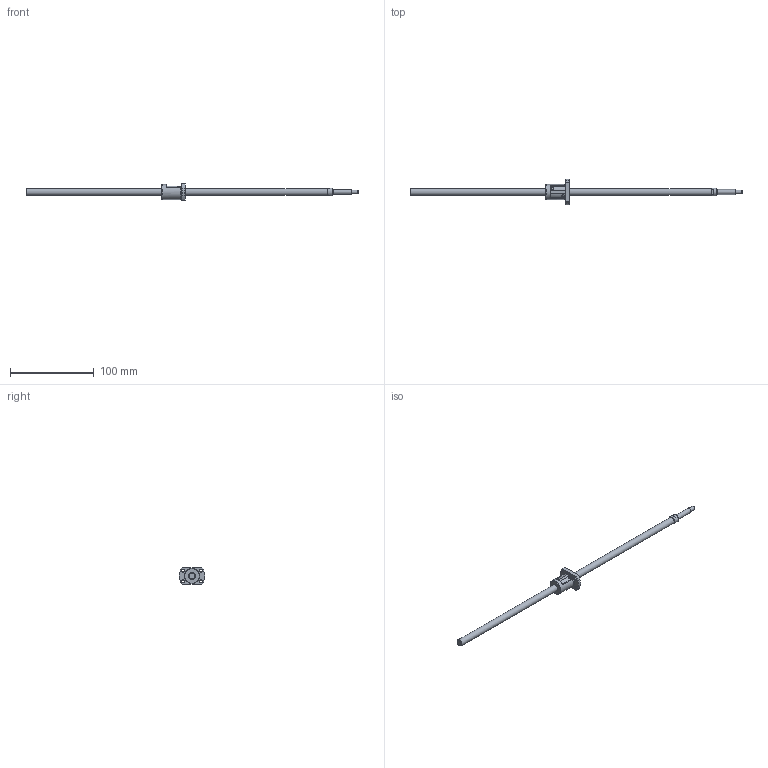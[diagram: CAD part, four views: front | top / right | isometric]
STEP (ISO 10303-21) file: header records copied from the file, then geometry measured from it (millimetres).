
FILE_DESCRIPTION(/* description */ ('STEP AP214'),/* implementation_level */ '2;1');
FILE_NAME(/* name */ 'SRT0805-356R397C7A0X(162.5Processing)',/* time_stamp */ '2026-08-04T20:03:12+02:00',/* author */ ('License CC BY-ND 4.0'),/* organization */ ('CADENAS'),/* preprocessor_version */ 'ST-DEVELOPER v20',/* originating_system */ 'PARTsolutions',/* authorisation */ ' ');
FILE_SCHEMA (('AUTOMOTIVE_DESIGN {1 0 10303 214 3 1 1}'));
Length unit declared in the file: millimetre
Products named in the file (3): SRT0805-356R397C7A0X(162.5Processing); SRT0805-356R430ACt7Processing42Shaft; SRT0805Nut
Assembly tree (2 placements, depth 2):
  SRT0805-356R397C7A0X(162.5Processing)
    SRT0805-356R430ACt7Processing42Shaft
    SRT0805Nut
Bounding box: 397 x 30.91 x 20 mm (x, y, z)
Volume: 25718.7 mm3; surface area: 13455.8 mm2
Topology: 2 solids, 2 shells, 70 faces, 166 edges, 105 vertices
Faces by surface type: plane 43, cylinder 15, cone 11, torus 1
Full cylindrical faces by diameter (mm): 3.4 x4, 4.5 x1, 6 x1, 8 x2, 9.5 x1, 17.7 x1, 18 x1
Entity records: 1955 total; most frequent: CARTESIAN_POINT 351, DIRECTION 332, ORIENTED_EDGE 276, EDGE_CURVE 138, AXIS2_PLACEMENT_3D 131, EDGE_LOOP 104, FACE_BOUND 104, VERTEX_POINT 96
